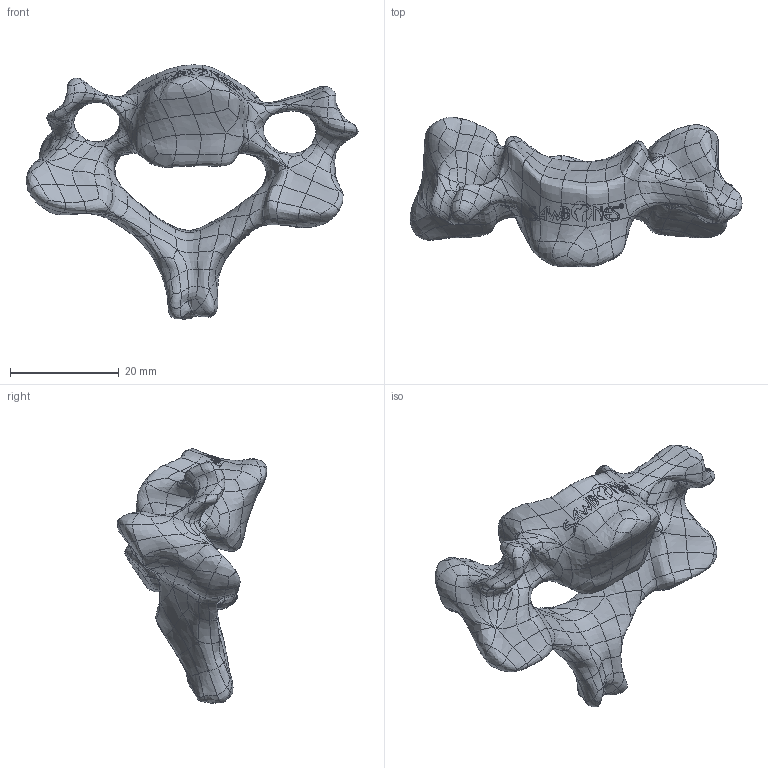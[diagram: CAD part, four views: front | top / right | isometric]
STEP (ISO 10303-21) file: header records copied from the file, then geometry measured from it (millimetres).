
FILE_DESCRIPTION (( 'STEP AP203' ), '1' );
FILE_NAME ('1377-40-5.STEP', '2025-06-12T20:57:14', ( '' ), ( '' ), 'SwSTEP 2.0', 'SolidWorks 2024', '' );
FILE_SCHEMA (( 'CONFIG_CONTROL_DESIGN' ));
Products named in the file (1): 1377-40-5
Bounding box: 61.06 x 27.56 x 46.74 mm (x, y, z)
Volume: 12234.2 mm3; surface area: 5379.7 mm2
Topology: 1 solids, 1 shells, 833 faces, 1842 edges, 1013 vertices
Faces by surface type: bspline 830, plane 3
Entity records: 90688 total; most frequent: CARTESIAN_POINT 78866, ORIENTED_EDGE 3684, EDGE_CURVE 1842, B_SPLINE_CURVE_WITH_KNOTS 1842, VERTEX_POINT 1013, EDGE_LOOP 841, FACE_OUTER_BOUND 833, ADVANCED_FACE 833
